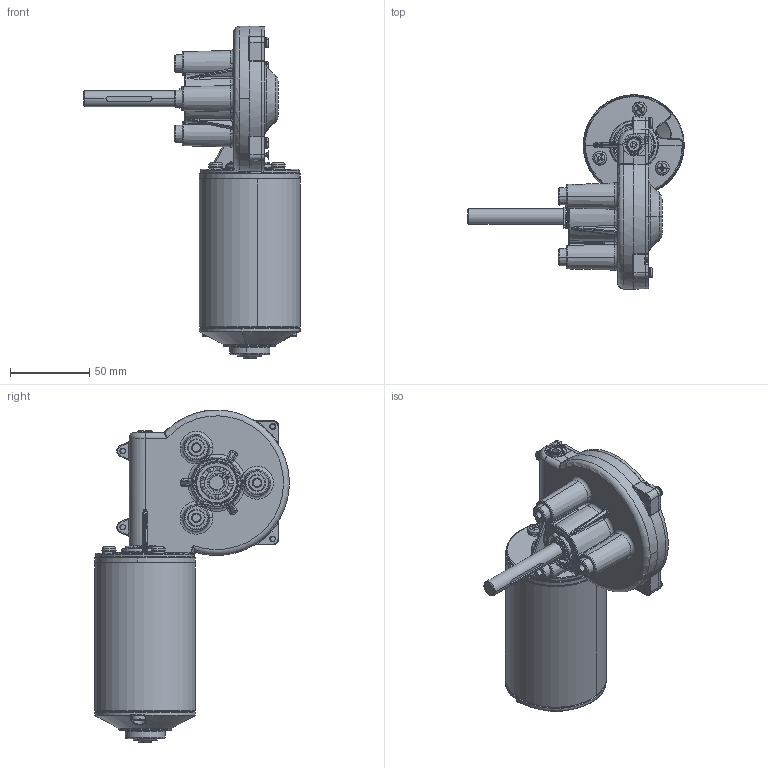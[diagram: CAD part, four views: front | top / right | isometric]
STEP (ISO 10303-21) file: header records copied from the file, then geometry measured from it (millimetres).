
FILE_DESCRIPTION (( 'STEP AP203' ), '1' );
FILE_NAME ('3D_TIG1.STEP', '2022-01-17T04:02:50', ( '' ), ( '' ), 'SwSTEP 2.0', 'SolidWorks 2015', '' );
FILE_SCHEMA (( 'CONFIG_CONTROL_DESIGN' ));
Length unit declared in the file: millimetre
Products named in the file (1): 3D_TIG1
Bounding box: 136.25 x 122.6 x 209 mm (x, y, z)
Surface area: 96504.8 mm2 (no closed solid volume)
Topology: 0 solids, 33 shells, 900 faces, 2843 edges, 1869 vertices
Faces by surface type: plane 223, cylinder 200, torus 168, bspline 157, cone 106, sphere 46
Entity records: 41234 total; most frequent: CARTESIAN_POINT 18083, DIRECTION 4722, ORIENTED_EDGE 4696, EDGE_CURVE 2774, AXIS2_PLACEMENT_3D 1975, VERTEX_POINT 1840, CIRCLE 1231, EDGE_LOOP 955
